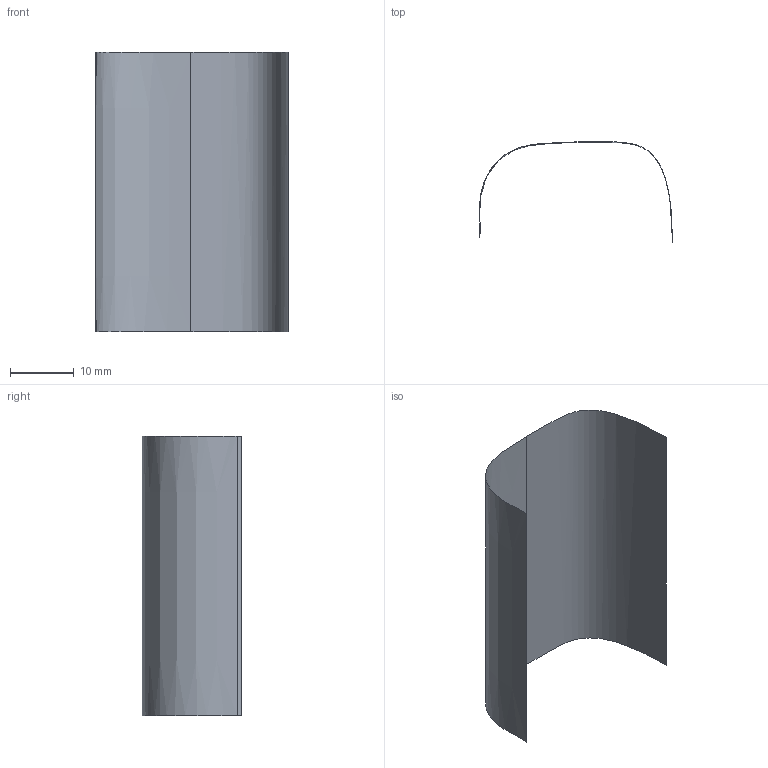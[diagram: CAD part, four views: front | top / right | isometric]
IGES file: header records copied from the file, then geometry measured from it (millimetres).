
Global section: file name: C:\Pruebas OCC\2Srf.igs; native system: Rhinoceros ( Mar  9 2011 ); preprocessor: Trout Lake IGES 012 Mar  9 2011; date: 120509.104237; units: millimetre
Bounding box: 30.18 x 15.64 x 43.66 mm (x, y, z)
Surface area: 2284.5 mm2 (no closed solid volume)
Topology: 0 solids, 0 shells, 2 faces, 8 edges, 8 vertices
Faces by surface type: bspline 2
